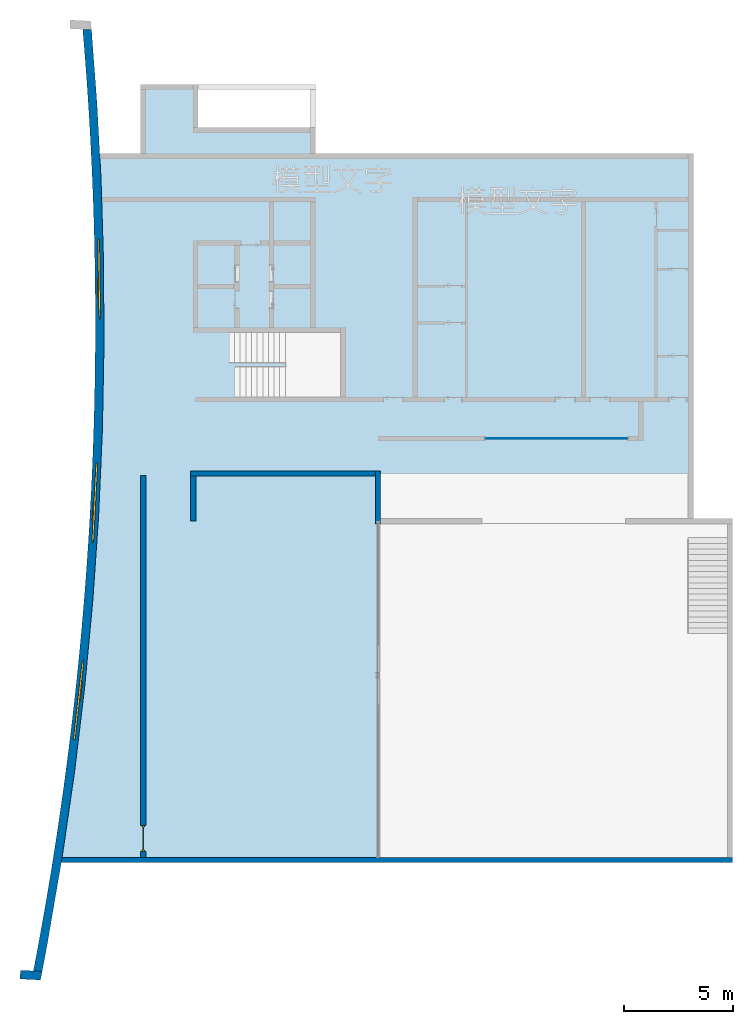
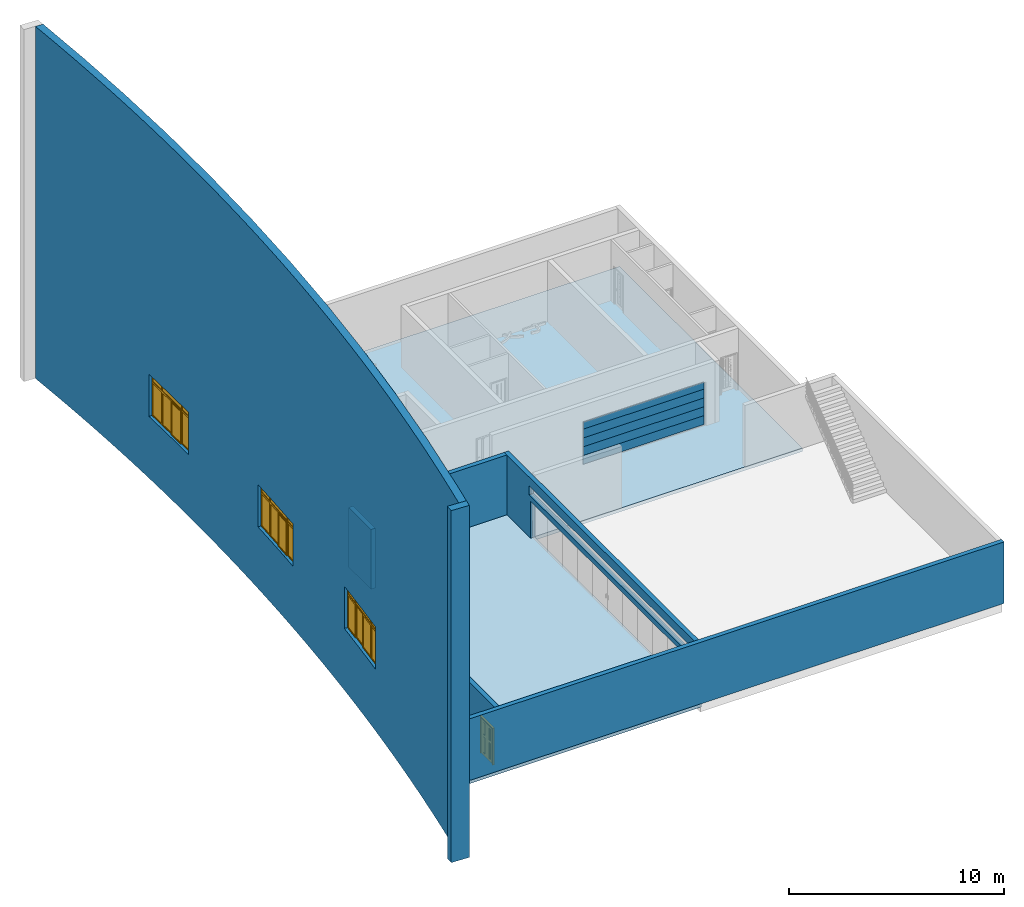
"""IFC2X3 building model written with IfcOpenShell, lengths in millimetres."""

import ifcopenshell
import ifcopenshell.guid

model = None  # the IFC model being written
_history = None  # IfcOwnerHistory: only IFC2X3 demands one
_inside = {}  # id of a spatial element -> (the spatial element, [elements in it])
_under = {}  # id of a project, library or spatial element -> (it, [spatial elements below it])
_declared = {}  # id of a project -> (the project, [libraries it declares])
_typed = {}  # id of a type object -> (the type object, [elements of that type])
_made_of = {}  # id of a material, layer set ... -> (it, [elements and type objects made of it])


def new_model(schema):
    """Start an empty IFC model of exactly this schema.

    Asked for "IFC4X3", IfcOpenShell would pick the latest addendum, in which some entities
    have other attributes; the version numbers below select the first issue.
    IFC2X3 requires an IfcOwnerHistory on every rooted entity: one is made here for all.
    """
    global model, _history
    if schema == "IFC4X3":
        model = ifcopenshell.file(schema_version=(4, 3, 0, 0))
    else:
        model = ifcopenshell.file(schema=schema)
    _inside.clear()
    _under.clear()
    _declared.clear()
    _typed.clear()
    _made_of.clear()
    _history = None
    if model.schema == "IFC2X3":
        org = make("IfcOrganization", Name="unknown")
        user = make(
            "IfcPersonAndOrganization",
            ThePerson=make("IfcPerson", FamilyName="unknown"),
            TheOrganization=org,
        )
        app = make(
            "IfcApplication",
            ApplicationDeveloper=org,
            Version="unknown",
            ApplicationFullName="unknown",
            ApplicationIdentifier="unknown",
        )
        _history = make(
            "IfcOwnerHistory",
            OwningUser=user,
            OwningApplication=app,
            ChangeAction="ADDED",
            CreationDate=0,
        )
    return model


def make(cls, **values):
    """One entity of the class cls with the attributes given. An attribute that is None is left unset."""
    return model.create_entity(
        cls, **{name: value for name, value in values.items() if value is not None}
    )


def entity(cls, *values):
    """Any entity or typed value of the class cls, its attributes in the order of the schema. None: left unset."""
    e = model.create_entity(cls)
    for i, value in enumerate(values):
        if value is not None:
            e[i] = value
    return e


def rooted(cls, **values):
    """An entity with a GlobalId (a new one), such as an element, a storey or a relation."""
    return make(cls, GlobalId=ifcopenshell.guid.new(), OwnerHistory=_history, **values)


def si_unit(unit_type, name, prefix=None):
    """IfcSIUnit, for example si_unit("LENGTHUNIT", "METRE", prefix="MILLI")."""
    return make("IfcSIUnit", UnitType=unit_type, Prefix=prefix, Name=name)


def converted_unit(unit_type, name, factor, base, dimensions=None, offset=None):
    """IfcConversionBasedUnit, such as the inch: factor (a typed value) times the base unit."""
    return make(
        "IfcConversionBasedUnit"
        if offset is None
        else "IfcConversionBasedUnitWithOffset",
        ConversionOffset=offset,
        Dimensions=None
        if dimensions is None
        else entity("IfcDimensionalExponents", *dimensions),
        UnitType=unit_type,
        Name=name,
        ConversionFactor=make(
            "IfcMeasureWithUnit", ValueComponent=factor, UnitComponent=base
        ),
    )


def derived_unit(unit_type, elements):
    """IfcDerivedUnit: a product of units, each with its exponent."""
    return make(
        "IfcDerivedUnit",
        Elements=[
            make("IfcDerivedUnitElement", Unit=unit, Exponent=power)
            for unit, power in elements
        ],
        UnitType=unit_type,
    )


def assignment(units):
    """IfcUnitAssignment: the units of a project."""
    return None if units is None else make("IfcUnitAssignment", Units=units)


def point(xyz):
    """IfcCartesianPoint."""
    return None if xyz is None else make("IfcCartesianPoint", Coordinates=xyz)


def direction(xyz):
    """IfcDirection."""
    return None if xyz is None else make("IfcDirection", DirectionRatios=xyz)


def frame(location, z_axis=None, x_axis=None):
    """IfcAxis2Placement3D, a coordinate frame: its origin and axes. An axis left out is left unset."""
    return make(
        "IfcAxis2Placement3D",
        Location=point(location),
        Axis=direction(z_axis),
        RefDirection=direction(x_axis),
    )


def frame_2d(location, x_axis=None):
    """IfcAxis2Placement2D, a coordinate frame in the plane: its origin and x axis."""
    return make(
        "IfcAxis2Placement2D", Location=point(location), RefDirection=direction(x_axis)
    )


def origin():
    """The frame at (0, 0, 0) with its axes left unset."""
    return frame((0.0, 0.0, 0.0))


def origin_2d_with_axis():
    """The frame at (0, 0) in the plane with the x axis (1, 0) written out."""
    return frame_2d((0.0, 0.0), x_axis=(1.0, 0.0))


def place(relative_to, where):
    """IfcLocalPlacement: puts the frame where relative to a parent placement (None: the world)."""
    return make(
        "IfcLocalPlacement", PlacementRelTo=relative_to, RelativePlacement=where
    )


def context(
    kind, dimensions, precision=None, world=None, true_north=None, identifier=None
):
    """IfcGeometricRepresentationContext, for example the 3D "Model" context."""
    return make(
        "IfcGeometricRepresentationContext",
        ContextIdentifier=identifier,
        ContextType=kind,
        CoordinateSpaceDimension=dimensions,
        Precision=precision,
        WorldCoordinateSystem=world,
        TrueNorth=true_north,
    )


def subcontext(parent, identifier, kind, view, scale=None):
    """IfcGeometricRepresentationSubContext, for example "Body" below "Model"."""
    return make(
        "IfcGeometricRepresentationSubContext",
        ContextIdentifier=identifier,
        ContextType=kind,
        ParentContext=parent,
        TargetScale=scale,
        TargetView=view,
    )


def project(units=None, contexts=None):
    """IfcProject with its units and contexts."""
    return rooted(
        "IfcProject",
        Name="project",
        RepresentationContexts=contexts,
        UnitsInContext=assignment(units),
    )


def spatial(cls, under=None, at=None, **own):
    """A site, building, storey or space (cls), placed at a placement, below another one or the project."""
    s = rooted(cls, ObjectPlacement=at, **own)
    if under is not None:
        _under.setdefault(under.id(), (under, []))[1].append(s)
    return s


def polyline(points):
    """IfcPolyline through the points."""
    return make("IfcPolyline", Points=[point(p) for p in points])


def circle_curve(where, radius):
    """IfcCircle in the frame where."""
    return make("IfcCircle", Position=where, Radius=radius)


def parameter(value):
    """IfcParameterValue: where a trimmed curve begins or ends, as a parameter of its basis curve."""
    return model.create_entity("IfcParameterValue", value)


def trimmed(basis, trim1, trim2, sense, master):
    """IfcTrimmedCurve: the piece of a basis curve between two trims."""
    return make(
        "IfcTrimmedCurve",
        BasisCurve=basis,
        Trim1=trim1,
        Trim2=trim2,
        SenseAgreement=sense,
        MasterRepresentation=master,
    )


def segment(curve, same_sense, transition):
    """IfcCompositeCurveSegment."""
    return make(
        "IfcCompositeCurveSegment",
        Transition=transition,
        SameSense=same_sense,
        ParentCurve=curve,
    )


def composite_curve(segments, self_intersect=None):
    """IfcCompositeCurve: segments joined end to end."""
    return make("IfcCompositeCurve", Segments=segments, SelfIntersect=self_intersect)


def profile(cls, at=None, kind="AREA", **sizes):
    """A parametric profile (cls). Its sizes go by their IFC names, for example OverallWidth=200.0."""
    return make(cls, ProfileType=kind, Position=at, **sizes)


def rectangle(**sizes):
    """IfcRectangleProfileDef."""
    return profile("IfcRectangleProfileDef", **sizes)


def outline(outer, holes=None, kind="AREA"):
    """IfcArbitraryClosedProfileDef: a profile drawn as a closed curve; with holes, ...WithVoids."""
    if holes is None:
        return make("IfcArbitraryClosedProfileDef", ProfileType=kind, OuterCurve=outer)
    return make(
        "IfcArbitraryProfileDefWithVoids",
        ProfileType=kind,
        OuterCurve=outer,
        InnerCurves=holes,
    )


def extrude(swept, where, along, depth):
    """IfcExtrudedAreaSolid: the profile swept, set in the frame where, extruded along a direction by depth."""
    return make(
        "IfcExtrudedAreaSolid",
        SweptArea=swept,
        Position=where,
        ExtrudedDirection=direction(along),
        Depth=depth,
    )


def clip(a, b, op="DIFFERENCE"):
    """IfcBooleanClippingResult: the solid a cut by the half space b."""
    return make(
        "IfcBooleanClippingResult", Operator=op, FirstOperand=a, SecondOperand=b
    )


def bounded_halfspace(plane, agree, where, boundary):
    """IfcPolygonalBoundedHalfSpace: a half space limited to a polygon's prism."""
    return make(
        "IfcPolygonalBoundedHalfSpace",
        BaseSurface=make("IfcPlane", Position=plane),
        AgreementFlag=agree,
        Position=where,
        PolygonalBoundary=boundary,
    )


def shape(context_of_items, identifier, shape_type, items):
    """IfcShapeRepresentation: the items that make up one representation, for example the "Body"."""
    return make(
        "IfcShapeRepresentation",
        ContextOfItems=context_of_items,
        RepresentationIdentifier=identifier,
        RepresentationType=shape_type,
        Items=items,
    )


def source(mapping_origin, context_of_items, identifier, shape_type, items):
    """IfcRepresentationMap: a shape defined once, which mapped items show again and again."""
    return make(
        "IfcRepresentationMap",
        MappingOrigin=mapping_origin,
        MappedRepresentation=shape(context_of_items, identifier, shape_type, items),
    )


def transform(
    local_origin,
    x_axis=None,
    y_axis=None,
    z_axis=None,
    scale=None,
    scale2=None,
    scale3=None,
    uniform=True,
):
    """IfcCartesianTransformationOperator3D, or its non-uniform kind. x_axis, y_axis, z_axis: its Axis1, 2, 3."""
    if uniform:
        return make(
            "IfcCartesianTransformationOperator3D",
            Axis1=direction(x_axis),
            Axis2=direction(y_axis),
            LocalOrigin=point(local_origin),
            Scale=scale,
            Axis3=direction(z_axis),
        )
    return make(
        "IfcCartesianTransformationOperator3DnonUniform",
        Axis1=direction(x_axis),
        Axis2=direction(y_axis),
        LocalOrigin=point(local_origin),
        Scale=scale,
        Axis3=direction(z_axis),
        Scale2=scale2,
        Scale3=scale3,
    )


def mapped(mapping_source, mapping_target):
    """IfcMappedItem: shows the shape of a source again, moved by a transform."""
    return make(
        "IfcMappedItem", MappingSource=mapping_source, MappingTarget=mapping_target
    )


def material(Name=None, Category=None):
    """IfcMaterial."""
    return make("IfcMaterial", Name=Name, Category=Category)


def material_list(materials):
    """IfcMaterialList."""
    return make("IfcMaterialList", Materials=materials)


def layer(
    of_material, thickness, ventilated=None, Name=None, Category=None, Priority=None
):
    """IfcMaterialLayer: one layer of a wall or slab, of a material (None: an air gap)."""
    return make(
        "IfcMaterialLayer",
        Material=of_material,
        LayerThickness=thickness,
        IsVentilated=ventilated,
        Name=Name,
        Category=Category,
        Priority=Priority,
    )


def layer_set(layers, Name=None):
    """IfcMaterialLayerSet."""
    return make("IfcMaterialLayerSet", MaterialLayers=layers, LayerSetName=Name)


def layer_usage(for_layer_set, set_direction, sense, offset, extent=None):
    """IfcMaterialLayerSetUsage: how a layer set lies in its element."""
    return make(
        "IfcMaterialLayerSetUsage",
        ForLayerSet=for_layer_set,
        LayerSetDirection=set_direction,
        DirectionSense=sense,
        OffsetFromReferenceLine=offset,
        ReferenceExtent=extent,
    )


def made_of(thing, what):
    """Note that an element or type object is made of a material, layer set ...; save() writes the relation."""
    if what is not None:
        _made_of.setdefault(what.id(), (what, []))[1].append(thing)
    return thing


def type_object(cls, material=None, **own):
    """A type object (cls), such as IfcWallType, which elements share."""
    return made_of(rooted(cls, **own), material)


def type_shapes(of_type, sources):
    """Give a type object the sources (RepresentationMaps) that its elements show as mapped items."""
    of_type.RepresentationMaps = sources


def element(
    cls,
    number,
    at=None,
    inside=None,
    cuts=None,
    type_object=None,
    material=None,
    context=None,
    identifier="Body",
    shape_type=None,
    held_by="IfcProductDefinitionShape",
    body=None,
    shapes=None,
    **own,
):
    """One element of the class cls, such as IfcWall. Its Tag is "e" and its number.

    at: its placement. inside: the storey or other place that contains it. cuts: it is an
    opening in that element (IfcRelVoidsElement). A single representation is given by context,
    identifier, shape_type and body (its items); several are given by shapes. held_by: the class
    of the entity that holds the representations. save() writes the other relations.
    """
    e = rooted(cls, Tag="e%d" % number, ObjectPlacement=at, **own)
    if body is not None:
        shapes = [shape(context, identifier, shape_type, body)]
    if shapes is not None:
        e.Representation = make(held_by, Representations=shapes)
    if inside is not None:
        _inside.setdefault(inside.id(), (inside, []))[1].append(e)
    if cuts is not None:
        rooted(
            "IfcRelVoidsElement", RelatingBuildingElement=cuts, RelatedOpeningElement=e
        )
    if type_object is not None:
        _typed.setdefault(type_object.id(), (type_object, []))[1].append(e)
    return made_of(e, material)


def fill(opening, filler):
    """IfcRelFillsElement: the door or window that sits in an opening."""
    return rooted(
        "IfcRelFillsElement",
        RelatingOpeningElement=opening,
        RelatedBuildingElement=filler,
    )


def aggregate(whole, parts):
    """IfcRelAggregates: a whole, such as a stair, and the parts it consists of."""
    return rooted("IfcRelAggregates", RelatingObject=whole, RelatedObjects=parts)


def save(model, path):
    """Write the relations noted so far, then the file.

    IfcRelAggregates (storeys below a building ...), IfcRelContainedInSpatialStructure (elements
    in a storey), IfcRelDefinesByType, IfcRelAssociatesMaterial and IfcRelDeclares: one each for
    every whole, place, type object, material and project.
    """
    for whole, parts in _under.values():
        aggregate(whole, parts)
    for where, things in _inside.values():
        rooted(
            "IfcRelContainedInSpatialStructure",
            RelatedElements=things,
            RelatingStructure=where,
        )
    for kind, things in _typed.values():
        rooted("IfcRelDefinesByType", RelatedObjects=things, RelatingType=kind)
    for what, things in _made_of.values():
        rooted("IfcRelAssociatesMaterial", RelatedObjects=things, RelatingMaterial=what)
    for by, libraries in _declared.values():
        rooted("IfcRelDeclares", RelatingContext=by, RelatedDefinitions=libraries)
    model.write(path)


model = new_model("IFC2X3")

# Units and contexts
model_context = context("Model", 3, precision=0.01, world=origin(), true_north=direction((6.12303176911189e-17, 1.0)))
body_context = subcontext(model_context, "Body", "Model", "MODEL_VIEW")
ifc_project = project(units=[si_unit("LENGTHUNIT", "METRE", prefix="MILLI"), si_unit("AREAUNIT", "SQUARE_METRE"), si_unit("VOLUMEUNIT", "CUBIC_METRE"), converted_unit("PLANEANGLEUNIT", "DEGREE", entity("IfcRatioMeasure", 0.0174532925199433), si_unit("PLANEANGLEUNIT", "RADIAN"), dimensions=[0, 0, 0, 0, 0, 0, 0]), si_unit("MASSUNIT", "GRAM", prefix="KILO"), derived_unit("MASSDENSITYUNIT", [(si_unit("MASSUNIT", "GRAM", prefix="KILO"), 1), (si_unit("LENGTHUNIT", "METRE"), -3)]), si_unit("TIMEUNIT", "SECOND"), si_unit("FREQUENCYUNIT", "HERTZ"), si_unit("THERMODYNAMICTEMPERATUREUNIT", "DEGREE_CELSIUS"), derived_unit("THERMALTRANSMITTANCEUNIT", [(si_unit("MASSUNIT", "GRAM", prefix="KILO"), 1), (si_unit("THERMODYNAMICTEMPERATUREUNIT", "KELVIN"), -1), (si_unit("TIMEUNIT", "SECOND"), -3)]), derived_unit("VOLUMETRICFLOWRATEUNIT", [(si_unit("LENGTHUNIT", "METRE"), 3), (si_unit("TIMEUNIT", "SECOND"), -1)]), si_unit("ELECTRICCURRENTUNIT", "AMPERE"), si_unit("ELECTRICVOLTAGEUNIT", "VOLT"), si_unit("POWERUNIT", "WATT"), si_unit("FORCEUNIT", "NEWTON", prefix="KILO"), si_unit("ILLUMINANCEUNIT", "LUX"), si_unit("LUMINOUSFLUXUNIT", "LUMEN"), si_unit("LUMINOUSINTENSITYUNIT", "CANDELA"), derived_unit("USERDEFINED", [(si_unit("MASSUNIT", "GRAM", prefix="KILO"), -1), (si_unit("LENGTHUNIT", "METRE"), -2), (si_unit("TIMEUNIT", "SECOND"), 3), (si_unit("LUMINOUSFLUXUNIT", "LUMEN"), 1)]), derived_unit("LINEARVELOCITYUNIT", [(si_unit("LENGTHUNIT", "METRE"), 1), (si_unit("TIMEUNIT", "SECOND"), -1)]), si_unit("PRESSUREUNIT", "PASCAL"), derived_unit("USERDEFINED", [(si_unit("LENGTHUNIT", "METRE"), -2), (si_unit("MASSUNIT", "GRAM", prefix="KILO"), 1), (si_unit("TIMEUNIT", "SECOND"), -2)])], contexts=[model_context])

# Site, building, storey
site_placement = place(None, origin())
site = spatial("IfcSite", under=ifc_project, at=site_placement, Name="表面", CompositionType="ELEMENT")
building_placement = place(site_placement, origin())
building = spatial("IfcBuilding", under=site, at=building_placement, CompositionType="ELEMENT")
storey_1_placement = place(building_placement, frame((0.0, 0.0, -3500.0)))
storey_1 = spatial("IfcBuildingStorey", under=building, at=storey_1_placement, Name="-1F", CompositionType="ELEMENT", Elevation=-3500.0)

# Curtain wall, plates
curtain_wall_type = type_object("IfcCurtainWallType", Name="幕墙:幕墙 1", PredefinedType="NOTDEFINED")
curtain_wall_placement = place(storey_1_placement, frame((0.0, 0.0, 3500.0)))
curtain_wall = element("IfcCurtainWall", 1, at=curtain_wall_placement, inside=storey_1, type_object=curtain_wall_type, Name="幕墙:幕墙 1", ObjectType="幕墙:幕墙 1")
ifc_material_1 = material(Name="<Unnamed>")
ifc_layer_1 = layer(ifc_material_1, 30.0)
ifc_layer_set_1 = layer_set([ifc_layer_1], Name="幕墙系统:1450 x 2100mm")
ifc_layer_usage_1 = layer_usage(ifc_layer_set_1, "AXIS3", "POSITIVE", 0.0)
plate_type_1 = type_object("IfcPlateType", Name="玻璃", PredefinedType="CURTAIN_PANEL", material=ifc_layer_set_1)
shared_shape_1 = source(origin(), body_context, "Body", "SweptSolid", [
    extrude(rectangle(XDim=30.0, YDim=6500.0, at=frame_2d((0.0, -2.27373675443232e-13), x_axis=(1.0, 0.0))), frame((0.0, 0.0, 0.0), z_axis=(0.0, 0.0, 1.0), x_axis=(0.0, 1.0, 0.0)), (0.0, 0.0, 1.0), 500.0),
])
type_shapes(plate_type_1, [shared_shape_1])
plate_1_placement = place(curtain_wall_placement, frame((4589.75008735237, -10507.8459129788, -3450.0)))
plate_1 = element("IfcPlate", 2, at=plate_1_placement, type_object=plate_type_1, material=ifc_layer_usage_1, Name="系统嵌板:玻璃", ObjectType="玻璃", context=body_context, shape_type="MappedRepresentation", body=[
    mapped(shared_shape_1, transform((0.0, 0.0, 0.0), scale=1.0)),
])
ifc_layer_usage_2 = layer_usage(ifc_layer_set_1, "AXIS3", "POSITIVE", 0.0)
plate_2_placement = place(curtain_wall_placement, frame((4589.75008735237, -10507.8459129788, -2950.0)))
plate_2 = element("IfcPlate", 3, at=plate_2_placement, type_object=plate_type_1, material=ifc_layer_usage_2, Name="系统嵌板:玻璃", ObjectType="玻璃", context=body_context, shape_type="MappedRepresentation", body=[
    mapped(shared_shape_1, transform((0.0, 0.0, 0.0), scale=1.0)),
])
ifc_layer_usage_3 = layer_usage(ifc_layer_set_1, "AXIS3", "POSITIVE", 0.0)
plate_3_placement = place(curtain_wall_placement, frame((4589.75008735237, -10507.8459129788, -2450.0)))
plate_3 = element("IfcPlate", 4, at=plate_3_placement, type_object=plate_type_1, material=ifc_layer_usage_3, Name="系统嵌板:玻璃", ObjectType="玻璃", context=body_context, shape_type="MappedRepresentation", body=[
    mapped(shared_shape_1, transform((0.0, 0.0, 0.0), scale=1.0)),
])
ifc_layer_usage_4 = layer_usage(ifc_layer_set_1, "AXIS3", "POSITIVE", 0.0)
plate_4_placement = place(curtain_wall_placement, frame((4589.75008735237, -10507.8459129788, -1950.0)))
plate_4 = element("IfcPlate", 5, at=plate_4_placement, type_object=plate_type_1, material=ifc_layer_usage_4, Name="系统嵌板:玻璃", ObjectType="玻璃", context=body_context, shape_type="MappedRepresentation", body=[
    mapped(shared_shape_1, transform((0.0, 0.0, 0.0), scale=1.0)),
])
ifc_layer_usage_5 = layer_usage(ifc_layer_set_1, "AXIS3", "POSITIVE", 0.0)
plate_type_2 = type_object("IfcPlateType", Name="玻璃", PredefinedType="CURTAIN_PANEL", material=ifc_layer_set_1)
shared_shape_2 = source(origin(), body_context, "Body", "SweptSolid", [
    extrude(rectangle(XDim=30.0, YDim=6500.0, at=frame_2d((0.0, 2.27373675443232e-13), x_axis=(1.0, 0.0))), frame((0.0, 0.0, 0.0), z_axis=(0.0, 0.0, 1.0), x_axis=(0.0, 1.0, 0.0)), (0.0, 0.0, 1.0), 400.0),
])
type_shapes(plate_type_2, [shared_shape_2])
plate_5_placement = place(curtain_wall_placement, frame((4589.75008735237, -10507.8459129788, -1450.0)))
plate_5 = element("IfcPlate", 6, at=plate_5_placement, type_object=plate_type_2, material=ifc_layer_usage_5, Name="系统嵌板:玻璃", ObjectType="玻璃", context=body_context, shape_type="MappedRepresentation", body=[
    mapped(shared_shape_2, transform((0.0, 0.0, 0.0), scale=1.0)),
])
aggregate(curtain_wall, [plate_1, plate_2, plate_3, plate_4, plate_5])

# Slab
ifc_material_2 = material(Name="混凝土，现场浇注 - C30")
ifc_layer_2 = layer(ifc_material_2, 200.0)
ifc_layer_set_2 = layer_set([ifc_layer_2], Name="楼板:常规 - 200mm")
ifc_layer_usage_6 = layer_usage(ifc_layer_set_2, "AXIS3", "POSITIVE", 0.0)
slab_placement = place(storey_1_placement, origin())
element("IfcSlab", 7, at=slab_placement, inside=storey_1, material=ifc_layer_usage_6, Name="楼板:常规 - 200mm", ObjectType="楼板:常规 - 200mm", PredefinedType="FLOOR", context=body_context, shape_type="SweptSolid", body=[
    extrude(outline(composite_curve([segment(polyline([(-3650.88362803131, -25033.6591621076), (11041.1639126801, -25033.6591621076)]), True, "CONTINUOUS"), segment(trimmed(circle_curve(frame_2d((166699.980253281, -214.944632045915), x_axis=(-0.987526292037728, -0.157454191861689)), 157624.984363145), [parameter(348.10759863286)], [parameter(0.0)], True, "PARAMETER"), False, "CONTINUOUS"), segment(polyline([(9267.67236761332, 7576.34083789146), (7249.11637197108, 7576.34083789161)]), True, "CONTINUOUS"), segment(polyline([(7249.11637197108, 7576.34083789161), (7249.11637197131, 10657.3183242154)]), True, "CONTINUOUS"), segment(polyline([(7249.11637197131, 10657.3183242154), (4849.11637197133, 10657.3183242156)]), True, "CONTINUOUS"), segment(polyline([(4849.11637197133, 10657.3183242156), (4849.11637197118, 8657.3183242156)]), True, "CONTINUOUS"), segment(polyline([(4849.11637197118, 8657.3183242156), (-550.883628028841, 8657.31832421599)]), True, "CONTINUOUS"), segment(polyline([(-550.883628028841, 8657.31832421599), (-550.88362802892, 7576.34083789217)]), True, "CONTINUOUS"), segment(polyline([(-550.88362802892, 7576.34083789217), (-18050.8836280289, 7576.34083789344)]), True, "CONTINUOUS"), segment(polyline([(-18050.8836280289, 7576.34083789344), (-18050.8836280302, -9433.65916210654)]), True, "CONTINUOUS"), segment(polyline([(-18050.8836280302, -9433.65916210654), (-3650.88362803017, -9433.65916210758)]), True, "CONTINUOUS"), segment(polyline([(-3650.88362803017, -9433.65916210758), (-3650.88362803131, -25033.6591621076)]), True, "CONTINUOUS")], self_intersect=False)), frame((-7181.13354067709, -4974.18675087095, 0.0), z_axis=(0.0, 0.0, -1.0), x_axis=(-1.0, 0.0, 0.0)), (0.0, 0.0, 1.0), 200.0),
])

# Wall, openings
ifc_material_3 = material(Name="石灰华")
ifc_layer_3 = layer(ifc_material_3, 20.0)
ifc_material_4 = material(Name="混凝土，现场浇注 - C40")
ifc_layer_4 = layer(ifc_material_4, 360.0)
ifc_layer_5 = layer(ifc_material_3, 20.0)
ifc_layer_set_3 = layer_set([ifc_layer_3, ifc_layer_4, ifc_layer_5], Name="基本墙:石墙 - 400mm")
ifc_layer_usage_7 = layer_usage(ifc_layer_set_3, "AXIS2", "POSITIVE", -200.0)
wall_type_1 = type_object("IfcWallType", Name="基本墙:石墙 - 400mm", PredefinedType="NOTDEFINED", material=ifc_layer_set_3)
wall_1_placement = place(storey_1_placement, frame((-19293.3969261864, -35048.1483580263, 0.0), z_axis=(0.0, 0.0, 1.0), x_axis=(0.189300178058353, 0.981919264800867, 0.0)))
wall_1 = element("IfcWallStandardCase", 8, at=wall_1_placement, inside=storey_1, type_object=wall_type_1, material=ifc_layer_usage_7, Name="基本墙:石墙 - 400mm", ObjectType="基本墙:石墙 - 400mm", context=body_context, shape_type="SweptSolid", body=[
    extrude(outline(composite_curve([segment(polyline([(0.0707061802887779, 199.99998750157), (55.6616671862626, -200.009839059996)]), True, "CONTINUOUS"), segment(polyline([(55.6616671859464, -200.009839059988), (1325.83343706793, -194.892763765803)]), True, "CONTINUOUS"), segment(polyline([(1325.83343706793, -194.892763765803), (5378.3965235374, -110.125639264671)]), True, "CONTINUOUS"), segment(polyline([(5378.3965235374, -110.125639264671), (9321.29382710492, 72.5209131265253)]), True, "CONTINUOUS"), segment(polyline([(9321.29382710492, 72.5209131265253), (13258.3826097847, 353.825013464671)]), True, "CONTINUOUS"), segment(polyline([(13258.3826097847, 353.825013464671), (17187.1942117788, 733.610266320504)]), True, "CONTINUOUS"), segment(polyline([(17187.1942117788, 733.610266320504), (21105.265819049, 1211.63858099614)]), True, "CONTINUOUS"), segment(polyline([(21105.265819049, 1211.63858099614), (25010.1413490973, 1787.61029527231)]), True, "CONTINUOUS"), segment(polyline([(25010.1413490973, 1787.61029527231), (28899.3729897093, 2461.16436315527)]), True, "CONTINUOUS"), segment(polyline([(28899.3729897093, 2461.16436315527), (32770.5227325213, 3231.87858106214)]), True, "CONTINUOUS"), segment(polyline([(32770.5227325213, 3231.87858106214), (36431.6541643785, 4054.20470823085)]), True, "CONTINUOUS"), segment(polyline([(36431.6541643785, 4054.20470823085), (39736.249971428, 4875.67221629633)]), True, "CONTINUOUS"), segment(polyline([(39736.249971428, 4875.67221629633), (43042.5277105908, 5774.04638483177)]), True, "CONTINUOUS"), segment(polyline([(43042.5277105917, 5774.04638483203), (42986.9367495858, 6174.05621139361)]), True, "CONTINUOUS"), segment(trimmed(circle_curve(frame_2d((55.6616671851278, 157444.974524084), x_axis=(1.0, 0.0)), 157244.984363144), [parameter(269.979744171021)], [parameter(285.84414826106)], True, "PARAMETER"), False, "CONTINUOUS")], self_intersect=False)), origin(), (0.0, 0.0, 1.0), 20000.0),
])
opening_1_placement = place(wall_1_placement, origin())
element("IfcOpeningElement", 9, at=opening_1_placement, cuts=wall_1, Name="基本墙:石墙 - 400mm", ObjectType="Opening", context=body_context, shape_type="SweptSolid", body=[
    extrude(rectangle(XDim=240.0, YDim=899.999999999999, at=frame_2d((-5.40012479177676e-13, -2.1600499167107e-12), x_axis=(1.0, 0.0))), frame((27607.1323483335, 3292.67958978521, 3500.0), z_axis=(0.0, 0.0, 1.0), x_axis=(-0.981919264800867, -0.189300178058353, 0.0)), (0.0, 0.0, 1.0), 2099.99999999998),
])
opening_2_placement = place(wall_1_placement, frame((33601.7563233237, 3862.06475536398, 3500.0)))
opening_2 = element("IfcOpeningElement", 10, at=opening_2_placement, cuts=wall_1, Name="YM3627:YM3624:1", ObjectType="Opening", context=body_context, shape_type="SweptSolid", body=[
    extrude(rectangle(XDim=2400.0, YDim=3600.0, at=frame_2d((1200.0, 1800.0), x_axis=(1.0, 0.0))), frame((0.0, 0.0, 0.0), z_axis=(0.202191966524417, -0.979345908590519, 0.0), x_axis=(0.0, 0.0, 1.0)), (0.0, 0.0, 1.0), 541.194391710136),
])
opening_3_placement = place(wall_1_placement, frame((10832.6677890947, 127.56290887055, 3500.0)))
opening_3 = element("IfcOpeningElement", 11, at=opening_3_placement, cuts=wall_1, Name="YM3627:YM3624:1", ObjectType="Opening", context=body_context, shape_type="SweptSolid", body=[
    extrude(rectangle(XDim=2400.0, YDim=3600.0, at=frame_2d((1200.0, 1800.0), x_axis=(1.0, 0.0))), frame((0.0, 0.0, 0.0), z_axis=(-0.0797286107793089, 0.996816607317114, 0.0), x_axis=(0.0, 0.0, 1.0)), (0.0, 0.0, 1.0), 541.194391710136),
])
opening_4_placement = place(wall_1_placement, frame((23484.8553003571, 1996.83678868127, 3500.0)))
opening_4 = element("IfcOpeningElement", 12, at=opening_4_placement, cuts=wall_1, Name="YM3627:YM3624:1", ObjectType="Opening", context=body_context, shape_type="SweptSolid", body=[
    extrude(rectangle(XDim=2400.0, YDim=3600.0, at=frame_2d((1200.0, 1800.00000000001), x_axis=(1.0, 0.0))), frame((0.0, 0.0, 0.0), z_axis=(0.137705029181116, -0.990473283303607, 0.0), x_axis=(0.0, 0.0, 1.0)), (0.0, 0.0, 1.0), 541.194391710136),
])

# Storey
storey_2_placement = place(building_placement, origin())
storey_2 = spatial("IfcBuildingStorey", under=building, at=storey_2_placement, Name="1F", CompositionType="ELEMENT", Elevation=0.0)

# Door
ifc_material_5 = material(Name="铝合金")
ifc_material_6 = material(Name="玻璃")
ifc_material_list_1 = material_list([ifc_material_5, ifc_material_6])
ifc_material_list_2 = material_list([ifc_material_5, ifc_material_6])
door_style_1 = type_object("IfcDoorStyle", Name="YM3624", ConstructionType="NOTDEFINED", OperationType="NOTDEFINED", ParameterTakesPrecedence=False, Sizeable=False, material=ifc_material_list_2)
shared_shape_3 = source(origin(), body_context, "Body", "SweptSolid", [
    extrude(outline(polyline([(-450.158847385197, -950.0), (450.158847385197, -950.0), (450.158847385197, 950.0), (-450.158847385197, 950.0), (-450.158847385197, -950.0)]), holes=[polyline([(-400.158847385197, -900.0), (-400.158847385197, 900.0), (400.158847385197, 900.0), (400.158847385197, -900.0), (-400.158847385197, -900.0)])]), frame((2250.1588473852, 120.0, 950.0), z_axis=(0.0, 1.0, 0.0), x_axis=(-1.0, 0.0, 0.0)), (0.0, 0.0, 1.0), 80.0),
    extrude(rectangle(XDim=20.0, YDim=800.317694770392, at=frame_2d((3.5527136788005e-15, -5.6843418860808e-14), x_axis=(1.0, 0.0))), frame((2250.15884738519, 160.0, 50.0), z_axis=(0.0, 0.0, 1.0), x_axis=(0.0, 1.0, 0.0)), (0.0, 0.0, 1.0), 1799.9999999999),
    extrude(rectangle(XDim=20.0, YDim=799.682305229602, at=origin_2d_with_axis()), frame((449.841152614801, 200.0, 50.0), z_axis=(0.0, 0.0, 1.0), x_axis=(0.0, 1.0, 0.0)), (0.0, 0.0, 1.0), 1800.00000000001),
    extrude(rectangle(XDim=20.0, YDim=948.664019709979, at=frame_2d((0.0, 8.5265128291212e-14), x_axis=(1.0, 0.0))), frame((3224.64970462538, 200.0, 50.0), z_axis=(0.0, 0.0, 1.0), x_axis=(0.0, 1.0, 0.0)), (0.0, 0.0, 1.0), 1800.0),
    extrude(rectangle(XDim=20.0, YDim=824.68230522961, at=frame_2d((0.0, 8.5265128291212e-14), x_axis=(1.0, 0.0))), frame((3137.65884738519, 200.0, 1950.0), z_axis=(0.0, 0.0, 1.0), x_axis=(0.0, 1.0, 0.0)), (0.0, 0.0, 1.0), 399.999999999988),
    extrude(rectangle(XDim=20.0, YDim=1751.27077908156, at=origin_2d_with_axis()), frame((1799.68230522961, 200.0, 1950.0), z_axis=(0.0, 0.0, 1.0), x_axis=(0.0, 1.0, 0.0)), (0.0, 0.0, 1.0), 399.999999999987),
    extrude(rectangle(XDim=20.0, YDim=825.317694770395, at=origin_2d_with_axis()), frame((462.658847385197, 200.0, 1950.0), z_axis=(0.0, 0.0, 1.0), x_axis=(0.0, 1.0, 0.0)), (0.0, 0.0, 1.0), 399.999999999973),
    extrude(rectangle(XDim=20.0, YDim=849.999999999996, at=origin_2d_with_axis()), frame((1374.6823052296, 200.0, 50.0), z_axis=(0.0, 0.0, 1.0), x_axis=(0.0, 1.0, 0.0)), (0.0, 0.0, 1.0), 1799.99999999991),
    extrude(outline(polyline([(-950.0, -449.841152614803), (950.0, -449.841152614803), (950.0, 449.841152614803), (-950.0, 449.841152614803), (-950.0, -449.841152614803)]), holes=[polyline([(-900.0, -399.841152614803), (-900.0, 399.841152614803), (900.0, 399.841152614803), (900.0, -399.841152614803), (-900.0, -399.841152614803)])]), frame((449.841152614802, 160.0, 950.0), z_axis=(0.0, 1.0, 0.0), x_axis=(0.0, 0.0, 1.0)), (0.0, 0.0, 1.0), 80.0),
    extrude(outline(polyline([(-950.0, -475.0), (950.0, -475.0), (950.0, 475.0), (-950.0, 475.0), (-950.0, -475.0)]), holes=[polyline([(-900.0, -425.0), (-900.0, 425.0), (900.0, 425.0), (900.0, -425.0), (-900.0, -425.0)])]), frame((1374.6823052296, 160.0, 950.0), z_axis=(0.0, 1.0, 0.0), x_axis=(0.0, 0.0, 1.0)), (0.0, 0.0, 1.0), 80.0),
    extrude(outline(polyline([(-950.0, -449.841152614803), (950.0, -449.841152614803), (950.0, 449.841152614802), (-950.0, 449.841152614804), (-950.0, -449.841152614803)]), holes=[polyline([(-900.0, -399.841152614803), (-900.0, 399.841152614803), (900.0, 399.841152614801), (900.0, -399.841152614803), (-900.0, -399.841152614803)])]), frame((3150.1588473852, 160.0, 950.0), z_axis=(0.0, 1.0, 0.0), x_axis=(0.0, 0.0, 1.0)), (0.0, 0.0, 1.0), 80.0),
    extrude(outline(polyline([(-250.0, -1800.0), (250.0, -1800.0), (250.0, 1800.0), (-250.0, 1800.0), (-250.0, -1800.0)]), holes=[polyline([(-200.0, 925.317694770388), (-200.0, 1750.0), (200.0, 1750.0), (200.0, 925.317694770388), (-200.0, 925.317694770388)]), polyline([(200.0, -924.682305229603), (200.0, -1750.0), (-200.0, -1750.0), (-200.0, -924.682305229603), (200.0, -924.682305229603)]), polyline([(200.0, 875.317694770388), (200.0, -874.682305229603), (-200.0, -874.682305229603), (-200.0, 875.317694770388), (200.0, 875.317694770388)])]), frame((1800.0, 160.0, 2150.0), z_axis=(0.0, 1.0, 0.0), x_axis=(0.0, 0.0, 1.0)), (0.0, 0.0, 1.0), 80.0),
])
type_shapes(door_style_1, [shared_shape_3])
door_1_placement = place(opening_2_placement, frame((8.32274995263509, -40.312437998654, 0.0), z_axis=(0.0, 0.0, 1.0), x_axis=(-0.979345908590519, -0.202191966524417, 0.0)))
door_1 = element("IfcDoor", 13, at=door_1_placement, inside=storey_2, type_object=door_style_1, material=ifc_material_list_1, Name="YM3627:YM3624", ObjectType="YM3624", OverallHeight=2400.0, OverallWidth=3600.0, context=body_context, shape_type="MappedRepresentation", body=[
    mapped(shared_shape_3, transform((0.0, 0.0, 0.0), scale=1.0)),
])

fill(opening_2, door_1)

ifc_material_list_3 = material_list([ifc_material_5, ifc_material_6])
door_2_placement = place(opening_3_placement, frame((-3.2818380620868, 41.0315776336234, 0.0), z_axis=(0.0, 0.0, 1.0), x_axis=(0.996816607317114, 0.0797286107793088, 0.0)))
door_2 = element("IfcDoor", 14, at=door_2_placement, inside=storey_2, type_object=door_style_1, material=ifc_material_list_3, Name="YM3627:YM3624", ObjectType="YM3624", OverallHeight=2400.0, OverallWidth=3600.0, context=body_context, shape_type="MappedRepresentation", body=[
    mapped(shared_shape_3, transform((0.0, 0.0, 0.0), scale=1.0)),
])

fill(opening_3, door_2)

ifc_material_list_4 = material_list([ifc_material_5, ifc_material_6])
door_3_placement = place(opening_4_placement, frame((5.66829901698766, -40.7704698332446, 0.0), z_axis=(0.0, 0.0, 1.0), x_axis=(-0.990473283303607, -0.137705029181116, 0.0)))
door_3 = element("IfcDoor", 15, at=door_3_placement, inside=storey_2, type_object=door_style_1, material=ifc_material_list_4, Name="YM3627:YM3624", ObjectType="YM3624", OverallHeight=2400.0, OverallWidth=3600.0, context=body_context, shape_type="MappedRepresentation", body=[
    mapped(shared_shape_3, transform((0.0, 0.0, 0.0), scale=1.0)),
])

fill(opening_4, door_3)

# Walls
ifc_layer_usage_8 = layer_usage(ifc_layer_set_3, "AXIS2", "NEGATIVE", 200.0)
wall_2_placement = place(storey_1_placement, frame((-20095.5633745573, -35178.7449435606, 0.0), z_axis=(0.0, 0.0, 1.0), x_axis=(0.998629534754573, -0.0523359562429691, 0.0)))
element("IfcWallStandardCase", 16, at=wall_2_placement, inside=storey_1, type_object=wall_type_1, material=ifc_layer_usage_8, Name="基本墙:石墙 - 400mm", ObjectType="基本墙:石墙 - 400mm", context=body_context, shape_type="SweptSolid", body=[
    extrude(outline(composite_curve([segment(trimmed(circle_curve(frame_2d((-155144.327770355, 21900.0), x_axis=(0.137651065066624, 0.99048078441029)), 157644.984363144), [parameter(269.853197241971)], [parameter(270.0)], True, "PARAMETER"), True, "CONTINUOUS"), segment(polyline([(1000.0, 200.0), (596.145798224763, 200.0)]), True, "CONTINUOUS"), segment(polyline([(596.145798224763, 200.0), (0.0, 200.0)]), True, "CONTINUOUS"), segment(polyline([(0.0, 200.0), (0.0, -200.0)]), True, "CONTINUOUS"), segment(polyline([(0.0, -200.0), (943.887975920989, -200.0)]), True, "CONTINUOUS")], self_intersect=False)), origin(), (0.0, 0.0, 1.0), 20000.0),
])
ifc_material_7 = material(Name="白色涂料")
ifc_layer_6 = layer(ifc_material_7, 10.0)
ifc_material_8 = material(Name="默认墙")
ifc_layer_7 = layer(ifc_material_8, 220.0)
ifc_layer_8 = layer(ifc_material_7, 10.0)
ifc_layer_set_4 = layer_set([ifc_layer_6, ifc_layer_7, ifc_layer_8], Name="基本墙:粉刷墙240")
ifc_layer_usage_9 = layer_usage(ifc_layer_set_4, "AXIS2", "NEGATIVE", 120.0)
wall_type_2 = type_object("IfcWallType", Name="基本墙:粉刷墙240", PredefinedType="STANDARD", material=ifc_layer_set_4)
wall_3_placement = place(storey_1_placement, frame((12689.7500873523, -29907.8459129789, 0.0), z_axis=(0.0, 0.0, 1.0), x_axis=(-1.0, 0.0, 0.0)))
element("IfcWallStandardCase", 17, at=wall_3_placement, inside=storey_1, type_object=wall_type_2, material=ifc_layer_usage_9, Name="基本墙:粉刷墙240", ObjectType="基本墙:粉刷墙240", context=body_context, shape_type="SweptSolid", body=[
    extrude(outline(composite_curve([segment(trimmed(circle_curve(frame_2d((186570.86388131, -24718.7145300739), x_axis=(-0.189300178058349, -0.981919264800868)), 157644.984363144), [parameter(271.846585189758)], [parameter(271.93490524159)], True, "PARAMETER"), False, "CONTINUOUS"), segment(polyline([(30894.9847113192, 120.0), (0.0, 120.0)]), True, "CONTINUOUS"), segment(polyline([(0.0, 120.0), (0.0, -120.0)]), True, "CONTINUOUS"), segment(polyline([(0.0, -120.0), (240.0, -120.0)]), True, "CONTINUOUS"), segment(polyline([(240.0, -120.0), (27000.0, -120.0)]), True, "CONTINUOUS"), segment(polyline([(27000.0, -120.0), (27240.0, -120.0)]), True, "CONTINUOUS"), segment(polyline([(27240.0, -120.0), (30856.8814059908, -120.0)]), True, "CONTINUOUS")], self_intersect=False)), origin(), (0.0, 0.0, 1.0), 3500.0),
])

# Wall, opening, door
ifc_layer_usage_10 = layer_usage(ifc_layer_set_4, "AXIS2", "NEGATIVE", 120.0)
wall_4_placement = place(storey_1_placement, frame((-14430.2499126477, -29787.8459129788, 0.0), z_axis=(0.0, 0.0, 1.0), x_axis=(0.0, 1.0, 0.0)))
wall_4 = element("IfcWallStandardCase", 18, at=wall_4_placement, inside=storey_1, type_object=wall_type_2, material=ifc_layer_usage_10, Name="基本墙:粉刷墙240", ObjectType="基本墙:粉刷墙240", context=body_context, shape_type="SweptSolid", body=[
    extrude(rectangle(XDim=17580.0, YDim=240.000000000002, at=frame_2d((8790.0, -8.5265128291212e-14), x_axis=(-1.0, 0.0))), origin(), (0.0, 0.0, 1.0), 3500.0),
])
opening_5_placement = place(wall_4_placement, frame((280.0, -120.0, 0.0)))
opening_5 = element("IfcOpeningElement", 19, at=opening_5_placement, cuts=wall_4, Name="门-双扇平开:1200 x 2100 mm:1", ObjectType="Opening", context=body_context, shape_type="SweptSolid", body=[
    extrude(rectangle(XDim=2099.99999999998, YDim=1200.0, at=frame_2d((1049.99999999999, 600.0), x_axis=(1.0, 0.0))), frame((0.0, 0.0, 0.0), z_axis=(0.0, 1.0, 0.0), x_axis=(0.0, 0.0, 1.0)), (0.0, 0.0, 1.0), 240.0),
])
door_style_2 = type_object("IfcDoorStyle", Name="1200 x 2100 mm", ConstructionType="NOTDEFINED", OperationType="DOUBLE_DOOR_SINGLE_SWING", ParameterTakesPrecedence=False, Sizeable=False)
shared_shape_4 = source(origin(), body_context, "Body", "SweptSolid", [
    extrude(rectangle(XDim=10.0, YDim=130.0, at=frame_2d((0.0, -1.4210854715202e-14), x_axis=(1.0, 0.0))), frame((335.0, 120.0, 1200.0), z_axis=(0.0, 0.0, 1.0), x_axis=(0.0, 1.0, 0.0)), (0.0, 0.0, 1.0), 679.999999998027),
    extrude(rectangle(XDim=10.0, YDim=130.0, at=frame_2d((0.0, -1.4210854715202e-14), x_axis=(1.0, 0.0))), frame((335.0, 120.0, 150.0), z_axis=(0.0, 0.0, 1.0), x_axis=(0.0, 1.0, 0.0)), (0.0, 0.0, 1.0), 900.0),
    extrude(rectangle(XDim=10.0, YDim=129.999999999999, at=frame_2d((0.0, -2.1316282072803e-14), x_axis=(1.0, 0.0))), frame((865.0, 120.0, 1200.0), z_axis=(0.0, 0.0, 1.0), x_axis=(0.0, 1.0, 0.0)), (0.0, 0.0, 1.0), 679.999999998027),
    extrude(rectangle(XDim=10.0, YDim=129.999999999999, at=frame_2d((0.0, -2.1316282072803e-14), x_axis=(1.0, 0.0))), frame((865.0, 120.0, 150.0), z_axis=(0.0, 0.0, 1.0), x_axis=(0.0, 1.0, 0.0)), (0.0, 0.0, 1.0), 900.0),
    extrude(outline(polyline([(-1015.0, -265.0), (1015.0, -265.0), (1015.0, 265.0), (-1015.0, 265.0), (-1015.0, -265.0)]), holes=[polyline([(-865.0, -65.0), (-865.0, 65.0), (-185.0, 65.0), (-185.0, -65.0), (-865.0, -65.0)]), polyline([(-35.0, -65.0), (-35.0, 65.0), (865.0, 65.0), (865.0, -65.0), (-35.0, -65.0)])]), frame((335.0, 100.0, 1015.0), z_axis=(0.0, 1.0, 0.0), x_axis=(0.0, 0.0, -1.0)), (0.0, 0.0, 1.0), 40.0),
    extrude(outline(polyline([(-1015.0, -265.0), (1015.0, -265.0), (1015.0, 265.0), (-1015.0, 265.0), (-1015.0, -265.0)]), holes=[polyline([(-865.0, -65.0), (-865.0, 65.0), (-185.0, 65.0), (-185.0, -65.0), (-865.0, -65.0)]), polyline([(-35.0, -65.0), (-35.0, 65.0), (865.0, 65.0), (865.0, -65.0), (-35.0, -65.0)])]), frame((865.0, 100.0, 1015.0), z_axis=(0.0, 1.0, 0.0), x_axis=(0.0, 0.0, -1.0)), (0.0, 0.0, 1.0), 40.0),
    extrude(outline(polyline([(-1032.49999999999, -530.0), (-1032.49999999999, -600.0), (1067.49999999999, -600.0), (1067.49999999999, 600.0), (-1032.49999999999, 600.0), (-1032.49999999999, 530.0), (997.499999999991, 530.0), (997.499999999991, -530.0), (-1032.49999999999, -530.0)])), frame((600.0, 70.0, 1032.49999999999), z_axis=(0.0, -1.0, 0.0), x_axis=(0.0, 0.0, 1.0)), (0.0, 0.0, -1.0), 100.0),
])
type_shapes(door_style_2, [shared_shape_4])
door_4_placement = place(opening_5_placement, origin())
door_4 = element("IfcDoor", 20, at=door_4_placement, inside=storey_1, type_object=door_style_2, Name="门-双扇平开:1200 x 2100 mm", ObjectType="1200 x 2100 mm", OverallHeight=2099.99999999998, OverallWidth=1200.0, context=body_context, shape_type="MappedRepresentation", body=[
    mapped(shared_shape_4, transform((0.0, 0.0, 0.0), scale=1.0)),
])
fill(opening_5, door_4)

# Wall, openings
ifc_layer_usage_11 = layer_usage(ifc_layer_set_4, "AXIS2", "NEGATIVE", 120.0)
wall_5_placement = place(storey_1_placement, frame((-3630.24991264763, -11987.8459129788, 0.0), z_axis=(0.0, 0.0, 1.0), x_axis=(0.0, -1.0, 0.0)))
wall_5 = element("IfcWallStandardCase", 21, at=wall_5_placement, inside=storey_1, type_object=wall_type_2, material=ifc_layer_usage_11, Name="基本墙:粉刷墙240", ObjectType="基本墙:粉刷墙240", context=body_context, shape_type="SweptSolid", body=[
    extrude(rectangle(XDim=17800.0, YDim=240.0, at=frame_2d((8900.0, 0.0), x_axis=(-1.0, 0.0))), origin(), (0.0, 0.0, 1.0), 3400.0),
])
opening_6_placement = place(wall_5_placement, origin())
element("IfcOpeningElement", 22, at=opening_6_placement, cuts=wall_5, Name="基本墙:粉刷墙240", ObjectType="Opening", context=body_context, shape_type="SweptSolid", body=[
    extrude(rectangle(XDim=2100.0, YDim=15360.0, at=frame_2d((0.0, 3.18323145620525e-12), x_axis=(1.0, 0.0))), frame((10120.0, -272.4, 1050.0), z_axis=(0.0, 1.0, 0.0), x_axis=(0.0, 0.0, 1.0)), (0.0, 0.0, 1.0), 544.8),
])
opening_7_placement = place(wall_5_placement, origin())
element("IfcOpeningElement", 23, at=opening_7_placement, cuts=wall_5, Name="基本墙:粉刷墙240", ObjectType="Opening", context=body_context, shape_type="SweptSolid", body=[
    extrude(rectangle(XDim=500.0, YDim=15480.0, at=frame_2d((0.0, -2.27373675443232e-12), x_axis=(1.0, 0.0))), frame((10060.0, -272.4, 2650.0), z_axis=(0.0, 1.0, 0.0), x_axis=(0.0, 0.0, 1.0)), (0.0, 0.0, 1.0), 544.8),
])

# Walls
ifc_layer_usage_12 = layer_usage(ifc_layer_set_4, "AXIS2", "NEGATIVE", 120.0)
wall_6_placement = place(storey_1_placement, frame((-3750.24991264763, -12107.8459129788, 0.0), z_axis=(0.0, 0.0, 1.0), x_axis=(-1.0, 0.0, 0.0)))
element("IfcWallStandardCase", 24, at=wall_6_placement, inside=storey_1, type_object=wall_type_2, material=ifc_layer_usage_12, Name="基本墙:粉刷墙240", ObjectType="基本墙:粉刷墙240", context=body_context, shape_type="Clipping", body=[
    clip(extrude(rectangle(XDim=8500.0, YDim=240.000000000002, at=frame_2d((4250.0, 0.0), x_axis=(-1.0, 0.0))), origin(), (0.0, 0.0, 1.0), 3400.0), bounded_halfspace(frame((1480.0, -120.0, 3400.0), z_axis=(0.0, 0.0, -1.0), x_axis=(0.0, 1.0, 0.0)), True, frame((1480.0, -120.0, 3400.0)), polyline([(0.0, 0.0), (7020.0, 0.0), (7020.0, 240.0), (6780.0, 240.0), (0.0, 240.0), (0.0, 0.0)]))),
])
ifc_layer_usage_13 = layer_usage(ifc_layer_set_4, "AXIS2", "NEGATIVE", 120.0)
wall_7_placement = place(storey_1_placement, frame((-12130.2499126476, -12227.8459129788, 0.0), z_axis=(0.0, 0.0, 1.0), x_axis=(0.0, -1.0, 0.0)))
element("IfcWallStandardCase", 25, at=wall_7_placement, inside=storey_1, type_object=wall_type_2, material=ifc_layer_usage_13, Name="基本墙:粉刷墙240", ObjectType="基本墙:粉刷墙240", context=body_context, shape_type="Clipping", body=[
    clip(extrude(rectangle(XDim=2080.0, YDim=240.000000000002, at=frame_2d((1040.0, -1.20792265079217e-13), x_axis=(-1.0, 0.0))), origin(), (0.0, 0.0, 1.0), 3399.99999999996), bounded_halfspace(frame((0.0, -120.0, 3400.0), z_axis=(0.0, 0.0, -1.0), x_axis=(1.0, 0.0, 0.0)), True, frame((0.0, -120.0, 3400.0)), polyline([(0.0, 0.0), (2080.0, 0.0), (2080.0, 240.0), (0.0, 240.0), (0.0, 0.0)]))),
])

save(model, "model.ifc")
